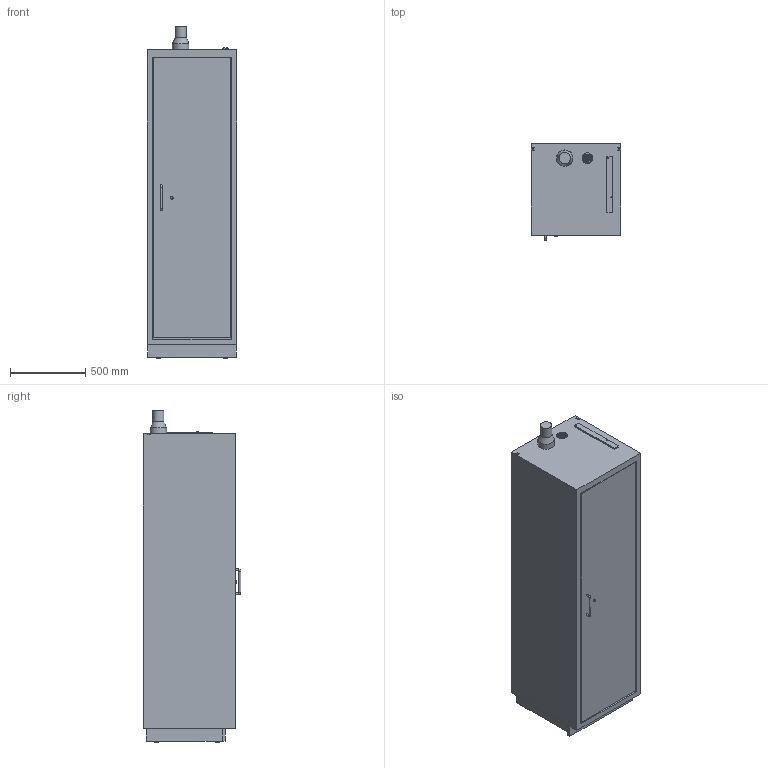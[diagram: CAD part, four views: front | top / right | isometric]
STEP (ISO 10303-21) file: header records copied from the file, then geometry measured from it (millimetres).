
FILE_DESCRIPTION(/* description */ ('Unknown'),/* implementation_level */ '2;1');
FILE_NAME(/* name */ 'BASIC standard M_D00120354',/* time_stamp */ '2022-07-06T08:46:23+02:00',/* author */ ('Unknown'),/* organization */ ('Unknown'),/* preprocessor_version */ 'ST-DEVELOPER v16.7',/* originating_system */ 'Solid Edge',/* authorisation */ 'Unknown');
FILE_SCHEMA (('AUTOMOTIVE_DESIGN {1 0 10303 214 3 1 1}'));
Length unit declared in the file: millimetre
Products named in the file (1): BASIC standard M_D00120354
Bounding box: 594 x 647 x 2203 mm (x, y, z)
Volume: 713235145.8 mm3; surface area: 6471421.3 mm2
Topology: 1 solids, 1 shells, 114 faces, 266 edges, 177 vertices
Faces by surface type: plane 83, cylinder 28, torus 2, cone 1
Full cylindrical faces by diameter (mm): 6.2 x2, 7.5 x2, 12 x3, 18 x1, 30 x4, 75 x1, 109.5 x1
Entity records: 3945 total; most frequent: CARTESIAN_POINT 533, DIRECTION 532, ORIENTED_EDGE 490, EDGE_CURVE 245, LINE 188, VECTOR 188, VERTEX_POINT 173, AXIS2_PLACEMENT_3D 172
